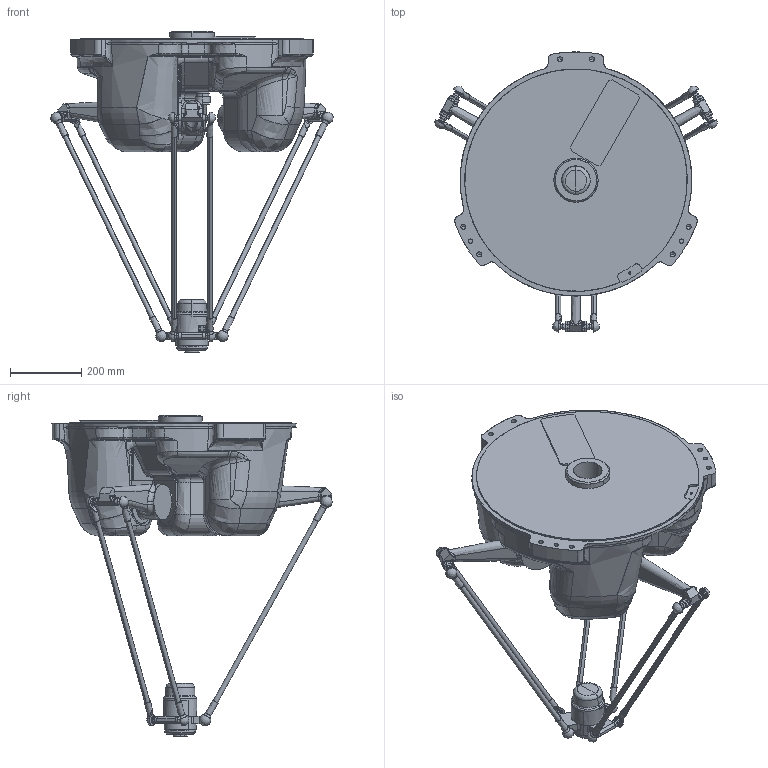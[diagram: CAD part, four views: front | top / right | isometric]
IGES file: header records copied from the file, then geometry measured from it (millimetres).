
Global section: file name: /ya/yax05/yax0504/v/step/step/MPP3s.igs; native system: NX V8.0; preprocessor: SIEMENS PLM Software NX 8.0; date: 20140203.084728; units: millimetre
Bounding box: 791.52 x 786 x 901.88 mm (x, y, z)
Surface area: 1877638.6 mm2 (no closed solid volume)
Topology: 0 solids, 0 shells, 1502 faces, 10794 edges, 10705 vertices
Faces by surface type: bspline 1502
